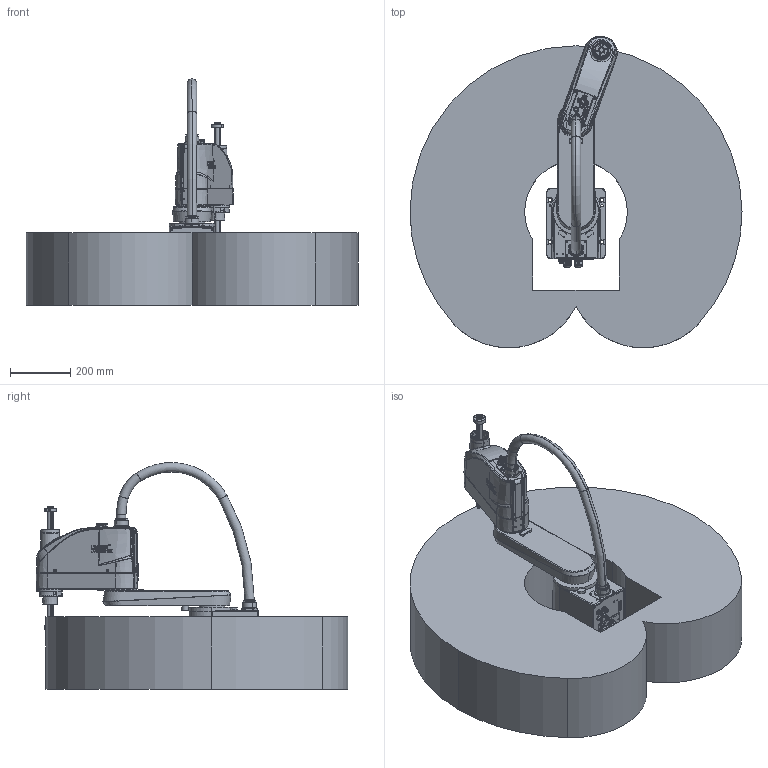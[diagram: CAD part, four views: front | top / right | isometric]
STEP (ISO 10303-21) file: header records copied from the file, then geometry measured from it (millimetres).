
FILE_DESCRIPTION (( 'STEP AP203' ), '1' );
FILE_NAME ('1.220B6.00.000.D Python550-B6陔俋夤蚾饜极.STEP', '2024-05-13T01:01:06', ( '' ), ( '' ), 'SwSTEP 2.0', 'SolidWorks 2021', '' );
FILE_SCHEMA (( 'CONFIG_CONTROL_DESIGN' ));
Products named in the file (7): 1.220B6.00.000.D Python550-B6陔俋夤蚾饜极; 复件 Python550-B6新外观大臂装配体^1.220B6.00.000.D Python550-B6新外观装配体; 复件 Python550-B6铸件工作空间^1.220B6.00.000.D Python550-B6新外观装配体; 复件 Python-B6新外观小臂装配体^1.220B6.00.000.D Python550-B6新外观装配体; 复件 Python550-B6新外观波纹管^1.220B6.00.000.D Python550-B6新外观装配体; 复件 Python-B6新外观滚珠丝杆花键轴装配体^1.220B6.00.000.D Python550-B6新外观装配体; 复件 Python-B6新外观底座装配体^1.220B6.00.000.D Python550-B6新外观装配体
Assembly tree (6 placements, depth 2):
  1.220B6.00.000.D Python550-B6陔俋夤蚾饜极
    复件 Python-B6新外观底座装配体^1.220B6.00.000.D Python550-B6新外观装配体
    复件 Python550-B6新外观大臂装配体^1.220B6.00.000.D Python550-B6新外观装配体
    复件 Python-B6新外观小臂装配体^1.220B6.00.000.D Python550-B6新外观装配体
    复件 Python-B6新外观滚珠丝杆花键轴装配体^1.220B6.00.000.D Python550-B6新外观装配体
    复件 Python550-B6新外观波纹管^1.220B6.00.000.D Python550-B6新外观装配体
    复件 Python550-B6铸件工作空间^1.220B6.00.000.D Python550-B6新外观装配体
Bounding box: 1100 x 1032.58 x 750.49 mm (x, y, z)
Volume: 194255319.6 mm3; surface area: 3865760.4 mm2
Topology: 56 solids, 56 shells, 2414 faces, 6063 edges, 3914 vertices
Faces by surface type: cylinder 860, plane 746, bspline 381, cone 329, torus 98
Entity records: 109696 total; most frequent: CARTESIAN_POINT 52891, ORIENTED_EDGE 12062, DIRECTION 11099, EDGE_CURVE 6031, AXIS2_PLACEMENT_3D 4454, VERTEX_POINT 3914, EDGE_LOOP 2863, ADVANCED_FACE 2414
